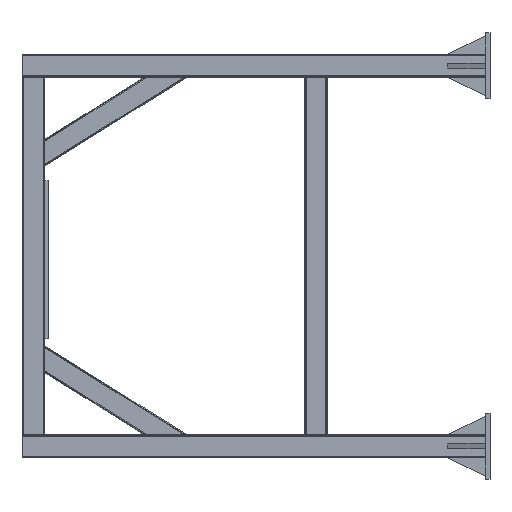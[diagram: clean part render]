
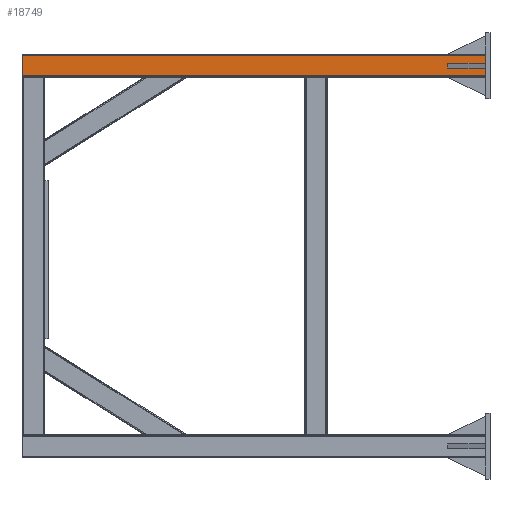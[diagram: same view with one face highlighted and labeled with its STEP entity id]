
A CAD part, left-side view. The second image highlights one B-rep face of the part: STEP entity #18749.
In plain terms, the highlighted planar face has unit normal (-1, 0, 0).
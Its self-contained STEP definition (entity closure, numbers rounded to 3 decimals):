
#279 = EDGE_LOOP ( 'NONE', ( #8077, #18631, #4723, #2294 ) ) ;
#481 = CARTESIAN_POINT ( 'NONE',  ( -1070., 0., 958. ) ) ;
#654 = VERTEX_POINT ( 'NONE', #14735 ) ;
#1001 = DIRECTION ( 'NONE',  ( 0., 0., -1. ) ) ;
#1014 = VERTEX_POINT ( 'NONE', #481 ) ;
#2294 = ORIENTED_EDGE ( 'NONE', *, *, #19444, .F. ) ;
#3194 = DIRECTION ( 'NONE',  ( 0., -1., 0. ) ) ;
#4433 = LINE ( 'NONE', #12030, #16011 ) ;
#4507 = CARTESIAN_POINT ( 'NONE',  ( -1070., 2400., 958. ) ) ;
#4613 = AXIS2_PLACEMENT_3D ( 'NONE', #8513, #13197, #1001 ) ;
#4723 = ORIENTED_EDGE ( 'NONE', *, *, #10463, .F. ) ;
#5120 = DIRECTION ( 'NONE',  ( 0., -1., 0. ) ) ;
#5507 = DIRECTION ( 'NONE',  ( 0., 0., 1. ) ) ;
#6682 = CARTESIAN_POINT ( 'NONE',  ( -1070., 0., 1062. ) ) ;
#7169 = EDGE_CURVE ( 'NONE', #654, #1014, #14080, .T. ) ;
#8077 = ORIENTED_EDGE ( 'NONE', *, *, #7169, .T. ) ;
#8513 = CARTESIAN_POINT ( 'NONE',  ( -1070., 2400., 1062. ) ) ;
#8556 = CARTESIAN_POINT ( 'NONE',  ( -1070., 0., 1062. ) ) ;
#9084 = EDGE_CURVE ( 'NONE', #1014, #11064, #19430, .T. ) ;
#9573 = CARTESIAN_POINT ( 'NONE',  ( -1070., 2400., 1062. ) ) ;
#10463 = EDGE_CURVE ( 'NONE', #11046, #11064, #12605, .T. ) ;
#10551 = VECTOR ( 'NONE', #3194, 1000. ) ;
#11046 = VERTEX_POINT ( 'NONE', #17126 ) ;
#11064 = VERTEX_POINT ( 'NONE', #6682 ) ;
#12030 = CARTESIAN_POINT ( 'NONE',  ( -1070., 2460., 1062. ) ) ;
#12350 = VECTOR ( 'NONE', #5507, 1000. ) ;
#12363 = VECTOR ( 'NONE', #5120, 1000. ) ;
#12605 = LINE ( 'NONE', #9573, #12363 ) ;
#13197 = DIRECTION ( 'NONE',  ( 1., 0., 0. ) ) ;
#14080 = LINE ( 'NONE', #4507, #10551 ) ;
#14735 = CARTESIAN_POINT ( 'NONE',  ( -1070., 2460., 958. ) ) ;
#15023 = DIRECTION ( 'NONE',  ( 0., 0., 1. ) ) ;
#15811 = FACE_OUTER_BOUND ( 'NONE', #279, .T. ) ;
#16011 = VECTOR ( 'NONE', #15023, 1000. ) ;
#17126 = CARTESIAN_POINT ( 'NONE',  ( -1070., 2460., 1062. ) ) ;
#17821 = PLANE ( 'NONE',  #4613 ) ;
#18631 = ORIENTED_EDGE ( 'NONE', *, *, #9084, .T. ) ;
#18749 = ADVANCED_FACE ( 'NONE', ( #15811 ), #17821, .F. ) ;
#19430 = LINE ( 'NONE', #8556, #12350 ) ;
#19444 = EDGE_CURVE ( 'NONE', #654, #11046, #4433, .T. ) ;
